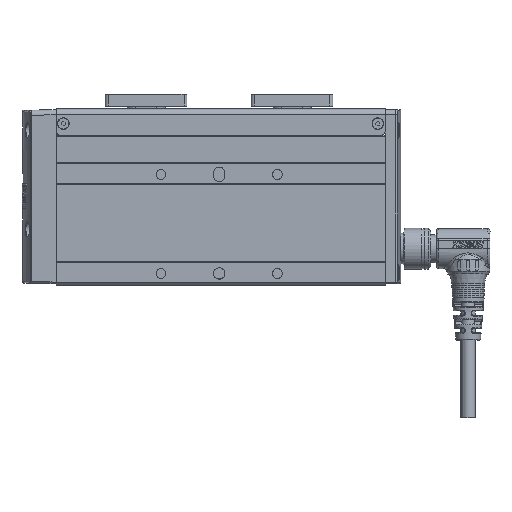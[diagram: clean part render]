
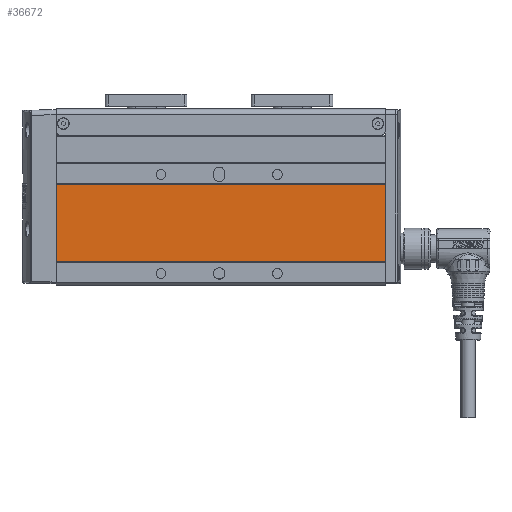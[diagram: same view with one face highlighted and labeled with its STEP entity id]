
A CAD part, top view. The second image highlights one B-rep face of the part: STEP entity #36672.
In plain terms, the highlighted planar face has unit normal (0, 0, 1).
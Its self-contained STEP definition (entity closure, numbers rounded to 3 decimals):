
#3171=PLANE('',#39227);
#4812=FACE_OUTER_BOUND('',#6830,.T.);
#6830=EDGE_LOOP('',(#26745,#26746,#26747,#26748));
#9099=LINE('',#55174,#11731);
#9145=LINE('',#55394,#11777);
#9174=LINE('',#55466,#11806);
#9175=LINE('',#55468,#11807);
#11731=VECTOR('',#44090,1000.);
#11777=VECTOR('',#44284,1000.);
#11806=VECTOR('',#44343,1000.);
#11807=VECTOR('',#44346,1000.);
#16585=VERTEX_POINT('',#55171);
#16586=VERTEX_POINT('',#55173);
#16661=VERTEX_POINT('',#55391);
#16662=VERTEX_POINT('',#55393);
#20454=EDGE_CURVE('',#16586,#16585,#9099,.T.);
#20545=EDGE_CURVE('',#16661,#16662,#9145,.T.);
#20583=EDGE_CURVE('',#16661,#16586,#9174,.T.);
#20584=EDGE_CURVE('',#16662,#16585,#9175,.T.);
#26745=ORIENTED_EDGE('',*,*,#20454,.T.);
#26746=ORIENTED_EDGE('',*,*,#20584,.F.);
#26747=ORIENTED_EDGE('',*,*,#20545,.F.);
#26748=ORIENTED_EDGE('',*,*,#20583,.T.);
#36672=ADVANCED_FACE('',(#4812),#3171,.F.);
#39227=AXIS2_PLACEMENT_3D('',#55467,#44344,#44345);
#44090=DIRECTION('',(0.,-1.,0.));
#44284=DIRECTION('',(0.,-1.,0.));
#44343=DIRECTION('',(-1.,0.,0.));
#44344=DIRECTION('center_axis',(0.,0.,
-1.));
#44345=DIRECTION('ref_axis',(0.,1.,0.));
#44346=DIRECTION('',(-1.,0.,0.));
#55171=CARTESIAN_POINT('',(-56.,8.122,16.2));
#55173=CARTESIAN_POINT('',(-56.,34.45,16.2));
#55174=CARTESIAN_POINT('',(-56.,34.45,16.2));
#55391=CARTESIAN_POINT('',(57.,34.45,16.2));
#55393=CARTESIAN_POINT('',(57.,8.122,16.2));
#55394=CARTESIAN_POINT('',(57.,34.45,16.2));
#55466=CARTESIAN_POINT('',(57.,34.45,16.2));
#55467=CARTESIAN_POINT('Origin',(57.,34.45,16.2));
#55468=CARTESIAN_POINT('',(57.,8.122,16.2));
